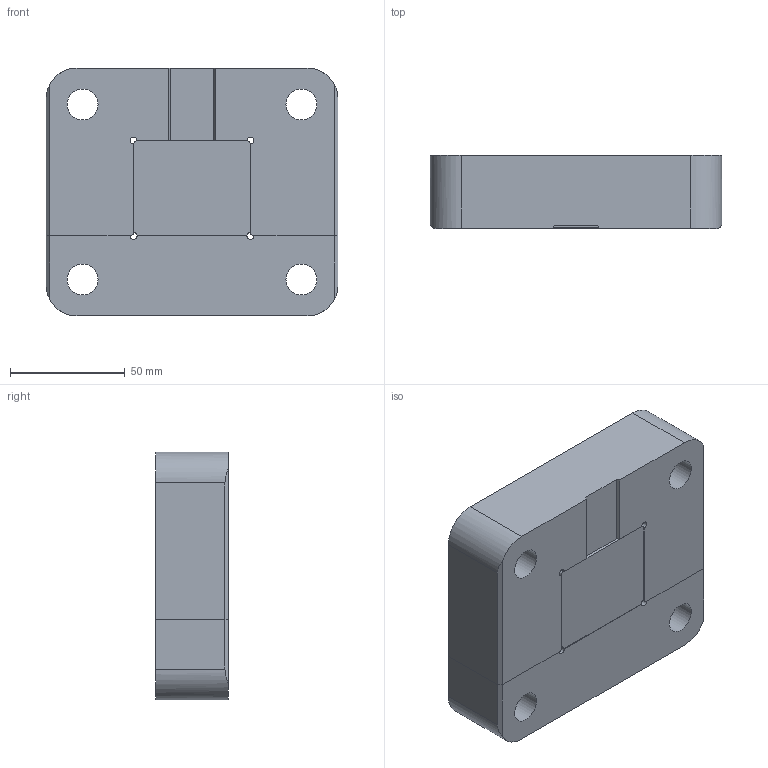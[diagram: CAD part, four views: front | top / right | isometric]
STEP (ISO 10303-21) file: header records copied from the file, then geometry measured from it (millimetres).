
FILE_DESCRIPTION(/* description */ ('STEP AP214'),/* implementation_level */ '2;1');
FILE_NAME(/* name */ 'BGS5000',/* time_stamp */ '2024-12-19T08:05:10+01:00',/* author */ ('License CC BY-ND 4.0'),/* organization */ ('CADENAS'),/* preprocessor_version */ 'ST-DEVELOPER v19.3',/* originating_system */ 'PARTsolutions',/* authorisation */ ' ');
FILE_SCHEMA (('AUTOMOTIVE_DESIGN {1 0 10303 214 3 1 1}'));
Length unit declared in the file: millimetre
Products named in the file (3): BGS5000; BGS5000M; BGS5000F
Assembly tree (2 placements, depth 2):
  BGS5000
    BGS5000M
    BGS5000F
Bounding box: 127 x 31.75 x 107.95 mm (x, y, z)
Volume: 397277.1 mm3; surface area: 60427.3 mm2
Topology: 2 solids, 2 shells, 54 faces, 138 edges, 92 vertices
Faces by surface type: plane 34, cylinder 20
Full cylindrical faces by diameter (mm): 13.462 x4, 22.225 x4
Entity records: 1700 total; most frequent: DIRECTION 290, CARTESIAN_POINT 279, ORIENTED_EDGE 260, EDGE_CURVE 130, AXIS2_PLACEMENT_3D 103, VERTEX_POINT 92, LINE 84, VECTOR 84
